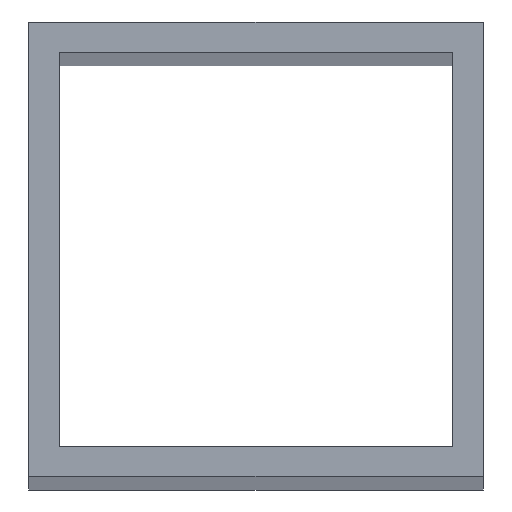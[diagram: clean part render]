
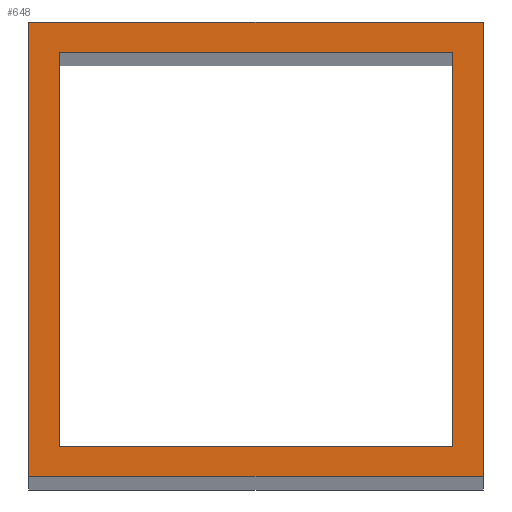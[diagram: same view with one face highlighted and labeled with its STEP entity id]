
A CAD part, top view. The second image highlights one B-rep face of the part: STEP entity #648.
In plain terms, the highlighted planar face has unit normal (0, 0, 1).
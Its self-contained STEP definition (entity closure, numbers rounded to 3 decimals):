
#24 = VERTEX_POINT('',#25);
#25 = CARTESIAN_POINT('',(-60.,-60.,2050.));
#32 = PLANE('',#33);
#33 = AXIS2_PLACEMENT_3D('',#34,#35,#36);
#34 = CARTESIAN_POINT('',(-60.,-60.,0.));
#35 = DIRECTION('',(0.,1.,0.));
#36 = DIRECTION('',(1.,0.,0.));
#44 = PLANE('',#45);
#45 = AXIS2_PLACEMENT_3D('',#46,#47,#48);
#46 = CARTESIAN_POINT('',(-60.,60.,0.));
#47 = DIRECTION('',(1.,0.,-0.));
#48 = DIRECTION('',(0.,-1.,0.));
#56 = EDGE_CURVE('',#24,#57,#59,.T.);
#57 = VERTEX_POINT('',#58);
#58 = CARTESIAN_POINT('',(60.,-60.,2050.));
#59 = SURFACE_CURVE('',#60,(#64,#71),.PCURVE_S1.);
#60 = LINE('',#61,#62);
#61 = CARTESIAN_POINT('',(-60.,-60.,2050.));
#62 = VECTOR('',#63,1.);
#63 = DIRECTION('',(1.,0.,0.));
#64 = PCURVE('',#32,#65);
#65 = DEFINITIONAL_REPRESENTATION('',(#66),#70);
#66 = LINE('',#67,#68);
#67 = CARTESIAN_POINT('',(0.,-2050.));
#68 = VECTOR('',#69,1.);
#69 = DIRECTION('',(1.,0.));
#70 = ( GEOMETRIC_REPRESENTATION_CONTEXT(2) 
PARAMETRIC_REPRESENTATION_CONTEXT() REPRESENTATION_CONTEXT('2D SPACE',''
  ) );
#71 = PCURVE('',#72,#77);
#72 = PLANE('',#73);
#73 = AXIS2_PLACEMENT_3D('',#74,#75,#76);
#74 = CARTESIAN_POINT('',(0.,0.,2050.));
#75 = DIRECTION('',(0.,0.,1.));
#76 = DIRECTION('',(1.,0.,-0.));
#77 = DEFINITIONAL_REPRESENTATION('',(#78),#82);
#78 = LINE('',#79,#80);
#79 = CARTESIAN_POINT('',(-60.,-60.));
#80 = VECTOR('',#81,1.);
#81 = DIRECTION('',(1.,0.));
#82 = ( GEOMETRIC_REPRESENTATION_CONTEXT(2) 
PARAMETRIC_REPRESENTATION_CONTEXT() REPRESENTATION_CONTEXT('2D SPACE',''
  ) );
#100 = PLANE('',#101);
#101 = AXIS2_PLACEMENT_3D('',#102,#103,#104);
#102 = CARTESIAN_POINT('',(60.,-60.,0.));
#103 = DIRECTION('',(-1.,0.,0.));
#104 = DIRECTION('',(0.,1.,0.));
#142 = EDGE_CURVE('',#57,#143,#145,.T.);
#143 = VERTEX_POINT('',#144);
#144 = CARTESIAN_POINT('',(60.,60.,2050.));
#145 = SURFACE_CURVE('',#146,(#150,#157),.PCURVE_S1.);
#146 = LINE('',#147,#148);
#147 = CARTESIAN_POINT('',(60.,-60.,2050.));
#148 = VECTOR('',#149,1.);
#149 = DIRECTION('',(0.,1.,0.));
#150 = PCURVE('',#100,#151);
#151 = DEFINITIONAL_REPRESENTATION('',(#152),#156);
#152 = LINE('',#153,#154);
#153 = CARTESIAN_POINT('',(0.,-2050.));
#154 = VECTOR('',#155,1.);
#155 = DIRECTION('',(1.,0.));
#156 = ( GEOMETRIC_REPRESENTATION_CONTEXT(2) 
PARAMETRIC_REPRESENTATION_CONTEXT() REPRESENTATION_CONTEXT('2D SPACE',''
  ) );
#157 = PCURVE('',#72,#158);
#158 = DEFINITIONAL_REPRESENTATION('',(#159),#163);
#159 = LINE('',#160,#161);
#160 = CARTESIAN_POINT('',(60.,-60.));
#161 = VECTOR('',#162,1.);
#162 = DIRECTION('',(0.,1.));
#163 = ( GEOMETRIC_REPRESENTATION_CONTEXT(2) 
PARAMETRIC_REPRESENTATION_CONTEXT() REPRESENTATION_CONTEXT('2D SPACE',''
  ) );
#181 = PLANE('',#182);
#182 = AXIS2_PLACEMENT_3D('',#183,#184,#185);
#183 = CARTESIAN_POINT('',(60.,60.,0.));
#184 = DIRECTION('',(0.,-1.,0.));
#185 = DIRECTION('',(-1.,0.,0.));
#218 = EDGE_CURVE('',#143,#219,#221,.T.);
#219 = VERTEX_POINT('',#220);
#220 = CARTESIAN_POINT('',(-60.,60.,2050.));
#221 = SURFACE_CURVE('',#222,(#226,#233),.PCURVE_S1.);
#222 = LINE('',#223,#224);
#223 = CARTESIAN_POINT('',(60.,60.,2050.));
#224 = VECTOR('',#225,1.);
#225 = DIRECTION('',(-1.,0.,0.));
#226 = PCURVE('',#181,#227);
#227 = DEFINITIONAL_REPRESENTATION('',(#228),#232);
#228 = LINE('',#229,#230);
#229 = CARTESIAN_POINT('',(0.,-2050.));
#230 = VECTOR('',#231,1.);
#231 = DIRECTION('',(1.,0.));
#232 = ( GEOMETRIC_REPRESENTATION_CONTEXT(2) 
PARAMETRIC_REPRESENTATION_CONTEXT() REPRESENTATION_CONTEXT('2D SPACE',''
  ) );
#233 = PCURVE('',#72,#234);
#234 = DEFINITIONAL_REPRESENTATION('',(#235),#239);
#235 = LINE('',#236,#237);
#236 = CARTESIAN_POINT('',(60.,60.));
#237 = VECTOR('',#238,1.);
#238 = DIRECTION('',(-1.,0.));
#239 = ( GEOMETRIC_REPRESENTATION_CONTEXT(2) 
PARAMETRIC_REPRESENTATION_CONTEXT() REPRESENTATION_CONTEXT('2D SPACE',''
  ) );
#289 = EDGE_CURVE('',#219,#24,#290,.T.);
#290 = SURFACE_CURVE('',#291,(#295,#302),.PCURVE_S1.);
#291 = LINE('',#292,#293);
#292 = CARTESIAN_POINT('',(-60.,60.,2050.));
#293 = VECTOR('',#294,1.);
#294 = DIRECTION('',(0.,-1.,0.));
#295 = PCURVE('',#44,#296);
#296 = DEFINITIONAL_REPRESENTATION('',(#297),#301);
#297 = LINE('',#298,#299);
#298 = CARTESIAN_POINT('',(0.,-2050.));
#299 = VECTOR('',#300,1.);
#300 = DIRECTION('',(1.,0.));
#301 = ( GEOMETRIC_REPRESENTATION_CONTEXT(2) 
PARAMETRIC_REPRESENTATION_CONTEXT() REPRESENTATION_CONTEXT('2D SPACE',''
  ) );
#302 = PCURVE('',#72,#303);
#303 = DEFINITIONAL_REPRESENTATION('',(#304),#308);
#304 = LINE('',#305,#306);
#305 = CARTESIAN_POINT('',(-60.,60.));
#306 = VECTOR('',#307,1.);
#307 = DIRECTION('',(0.,-1.));
#308 = ( GEOMETRIC_REPRESENTATION_CONTEXT(2) 
PARAMETRIC_REPRESENTATION_CONTEXT() REPRESENTATION_CONTEXT('2D SPACE',''
  ) );
#338 = VERTEX_POINT('',#339);
#339 = CARTESIAN_POINT('',(-52.,-52.,2050.));
#346 = PLANE('',#347);
#347 = AXIS2_PLACEMENT_3D('',#348,#349,#350);
#348 = CARTESIAN_POINT('',(-52.,-52.,0.));
#349 = DIRECTION('',(0.,1.,0.));
#350 = DIRECTION('',(1.,0.,0.));
#358 = PLANE('',#359);
#359 = AXIS2_PLACEMENT_3D('',#360,#361,#362);
#360 = CARTESIAN_POINT('',(-52.,52.,0.));
#361 = DIRECTION('',(1.,0.,-0.));
#362 = DIRECTION('',(0.,-1.,0.));
#370 = EDGE_CURVE('',#338,#371,#373,.T.);
#371 = VERTEX_POINT('',#372);
#372 = CARTESIAN_POINT('',(52.,-52.,2050.));
#373 = SURFACE_CURVE('',#374,(#378,#385),.PCURVE_S1.);
#374 = LINE('',#375,#376);
#375 = CARTESIAN_POINT('',(-52.,-52.,2050.));
#376 = VECTOR('',#377,1.);
#377 = DIRECTION('',(1.,0.,0.));
#378 = PCURVE('',#346,#379);
#379 = DEFINITIONAL_REPRESENTATION('',(#380),#384);
#380 = LINE('',#381,#382);
#381 = CARTESIAN_POINT('',(0.,-2050.));
#382 = VECTOR('',#383,1.);
#383 = DIRECTION('',(1.,0.));
#384 = ( GEOMETRIC_REPRESENTATION_CONTEXT(2) 
PARAMETRIC_REPRESENTATION_CONTEXT() REPRESENTATION_CONTEXT('2D SPACE',''
  ) );
#385 = PCURVE('',#72,#386);
#386 = DEFINITIONAL_REPRESENTATION('',(#387),#391);
#387 = LINE('',#388,#389);
#388 = CARTESIAN_POINT('',(-52.,-52.));
#389 = VECTOR('',#390,1.);
#390 = DIRECTION('',(1.,0.));
#391 = ( GEOMETRIC_REPRESENTATION_CONTEXT(2) 
PARAMETRIC_REPRESENTATION_CONTEXT() REPRESENTATION_CONTEXT('2D SPACE',''
  ) );
#409 = PLANE('',#410);
#410 = AXIS2_PLACEMENT_3D('',#411,#412,#413);
#411 = CARTESIAN_POINT('',(52.,-52.,0.));
#412 = DIRECTION('',(-1.,0.,0.));
#413 = DIRECTION('',(0.,1.,0.));
#446 = EDGE_CURVE('',#371,#447,#449,.T.);
#447 = VERTEX_POINT('',#448);
#448 = CARTESIAN_POINT('',(52.,52.,2050.));
#449 = SURFACE_CURVE('',#450,(#454,#461),.PCURVE_S1.);
#450 = LINE('',#451,#452);
#451 = CARTESIAN_POINT('',(52.,-52.,2050.));
#452 = VECTOR('',#453,1.);
#453 = DIRECTION('',(0.,1.,0.));
#454 = PCURVE('',#409,#455);
#455 = DEFINITIONAL_REPRESENTATION('',(#456),#460);
#456 = LINE('',#457,#458);
#457 = CARTESIAN_POINT('',(0.,-2050.));
#458 = VECTOR('',#459,1.);
#459 = DIRECTION('',(1.,0.));
#460 = ( GEOMETRIC_REPRESENTATION_CONTEXT(2) 
PARAMETRIC_REPRESENTATION_CONTEXT() REPRESENTATION_CONTEXT('2D SPACE',''
  ) );
#461 = PCURVE('',#72,#462);
#462 = DEFINITIONAL_REPRESENTATION('',(#463),#467);
#463 = LINE('',#464,#465);
#464 = CARTESIAN_POINT('',(52.,-52.));
#465 = VECTOR('',#466,1.);
#466 = DIRECTION('',(0.,1.));
#467 = ( GEOMETRIC_REPRESENTATION_CONTEXT(2) 
PARAMETRIC_REPRESENTATION_CONTEXT() REPRESENTATION_CONTEXT('2D SPACE',''
  ) );
#485 = PLANE('',#486);
#486 = AXIS2_PLACEMENT_3D('',#487,#488,#489);
#487 = CARTESIAN_POINT('',(52.,52.,0.));
#488 = DIRECTION('',(0.,-1.,0.));
#489 = DIRECTION('',(-1.,0.,0.));
#522 = EDGE_CURVE('',#447,#523,#525,.T.);
#523 = VERTEX_POINT('',#524);
#524 = CARTESIAN_POINT('',(-52.,52.,2050.));
#525 = SURFACE_CURVE('',#526,(#530,#537),.PCURVE_S1.);
#526 = LINE('',#527,#528);
#527 = CARTESIAN_POINT('',(52.,52.,2050.));
#528 = VECTOR('',#529,1.);
#529 = DIRECTION('',(-1.,0.,0.));
#530 = PCURVE('',#485,#531);
#531 = DEFINITIONAL_REPRESENTATION('',(#532),#536);
#532 = LINE('',#533,#534);
#533 = CARTESIAN_POINT('',(0.,-2050.));
#534 = VECTOR('',#535,1.);
#535 = DIRECTION('',(1.,0.));
#536 = ( GEOMETRIC_REPRESENTATION_CONTEXT(2) 
PARAMETRIC_REPRESENTATION_CONTEXT() REPRESENTATION_CONTEXT('2D SPACE',''
  ) );
#537 = PCURVE('',#72,#538);
#538 = DEFINITIONAL_REPRESENTATION('',(#539),#543);
#539 = LINE('',#540,#541);
#540 = CARTESIAN_POINT('',(52.,52.));
#541 = VECTOR('',#542,1.);
#542 = DIRECTION('',(-1.,0.));
#543 = ( GEOMETRIC_REPRESENTATION_CONTEXT(2) 
PARAMETRIC_REPRESENTATION_CONTEXT() REPRESENTATION_CONTEXT('2D SPACE',''
  ) );
#593 = EDGE_CURVE('',#523,#338,#594,.T.);
#594 = SURFACE_CURVE('',#595,(#599,#606),.PCURVE_S1.);
#595 = LINE('',#596,#597);
#596 = CARTESIAN_POINT('',(-52.,52.,2050.));
#597 = VECTOR('',#598,1.);
#598 = DIRECTION('',(0.,-1.,0.));
#599 = PCURVE('',#358,#600);
#600 = DEFINITIONAL_REPRESENTATION('',(#601),#605);
#601 = LINE('',#602,#603);
#602 = CARTESIAN_POINT('',(0.,-2050.));
#603 = VECTOR('',#604,1.);
#604 = DIRECTION('',(1.,0.));
#605 = ( GEOMETRIC_REPRESENTATION_CONTEXT(2) 
PARAMETRIC_REPRESENTATION_CONTEXT() REPRESENTATION_CONTEXT('2D SPACE',''
  ) );
#606 = PCURVE('',#72,#607);
#607 = DEFINITIONAL_REPRESENTATION('',(#608),#612);
#608 = LINE('',#609,#610);
#609 = CARTESIAN_POINT('',(-52.,52.));
#610 = VECTOR('',#611,1.);
#611 = DIRECTION('',(0.,-1.));
#612 = ( GEOMETRIC_REPRESENTATION_CONTEXT(2) 
PARAMETRIC_REPRESENTATION_CONTEXT() REPRESENTATION_CONTEXT('2D SPACE',''
  ) );
#648 = ADVANCED_FACE('',(#649,#655),#72,.T.);
#649 = FACE_BOUND('',#650,.T.);
#650 = EDGE_LOOP('',(#651,#652,#653,#654));
#651 = ORIENTED_EDGE('',*,*,#56,.T.);
#652 = ORIENTED_EDGE('',*,*,#142,.T.);
#653 = ORIENTED_EDGE('',*,*,#218,.T.);
#654 = ORIENTED_EDGE('',*,*,#289,.T.);
#655 = FACE_BOUND('',#656,.F.);
#656 = EDGE_LOOP('',(#657,#658,#659,#660));
#657 = ORIENTED_EDGE('',*,*,#370,.T.);
#658 = ORIENTED_EDGE('',*,*,#446,.T.);
#659 = ORIENTED_EDGE('',*,*,#522,.T.);
#660 = ORIENTED_EDGE('',*,*,#593,.T.);
